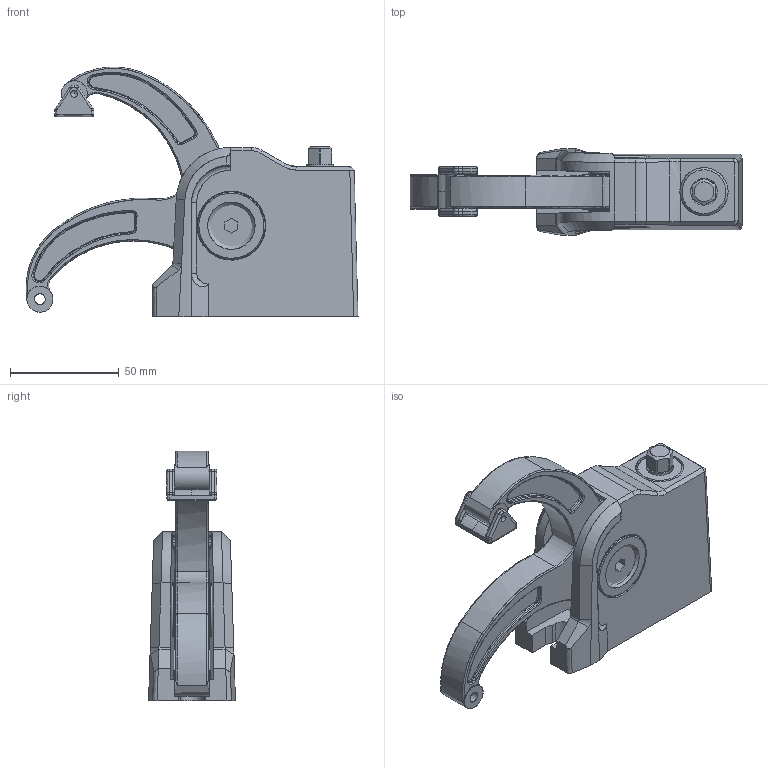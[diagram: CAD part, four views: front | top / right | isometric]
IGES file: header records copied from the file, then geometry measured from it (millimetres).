
Start section: ZWSOFT
Global section: file name: BAS-C10-6.igs; native system: ZW3D; preprocessor: 1.0; author: ZW3D; organization: ZWSOFT; date: 120704.114939; units: millimetre
Bounding box: 152.93 x 40 x 115.02 mm (x, y, z)
Surface area: 76962 mm2 (no closed solid volume)
Topology: 0 solids, 0 shells, 482 faces, 2440 edges, 2309 vertices
Faces by surface type: bspline 482
